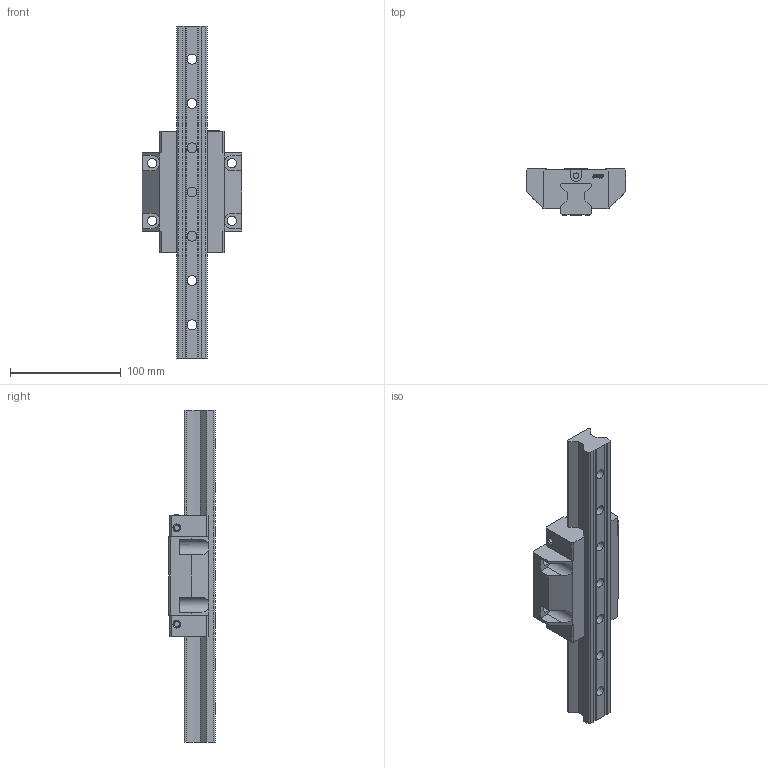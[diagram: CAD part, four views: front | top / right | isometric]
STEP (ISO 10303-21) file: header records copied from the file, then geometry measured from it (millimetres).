
FILE_DESCRIPTION(/* description */ (''),/* implementation_level */ '2;1');
FILE_NAME(/* name */ 'SRW30CC.stp',/* time_stamp */ '2022-01-22T15:22:25+08:00',/* author */ (''),/* organization */ (''),/* preprocessor_version */ 'ST-DEVELOPER v15',/* originating_system */ 'SIEMENS PLM Software NX 8.5',/* authorisation */ '');
FILE_SCHEMA (('CONFIG_CONTROL_DESIGN'));
Length unit declared in the file: millimetre
Products named in the file (1): _model1
Bounding box: 90 x 42 x 300 mm (x, y, z)
Volume: 389903.2 mm3; surface area: 81865.6 mm2
Topology: 2 solids, 2 shells, 269 faces, 746 edges, 500 vertices
Faces by surface type: plane 139, extrusion 88, cylinder 32, cone 10
Full cylindrical faces by diameter (mm): 5 x6, 8.5 x6, 9 x7, 14 x7
Entity records: 9214 total; most frequent: CARTESIAN_POINT 2580, ORIENTED_EDGE 1416, DIRECTION 1086, EDGE_CURVE 708, VECTOR 518, VERTEX_POINT 498, LINE 430, EDGE_LOOP 350
